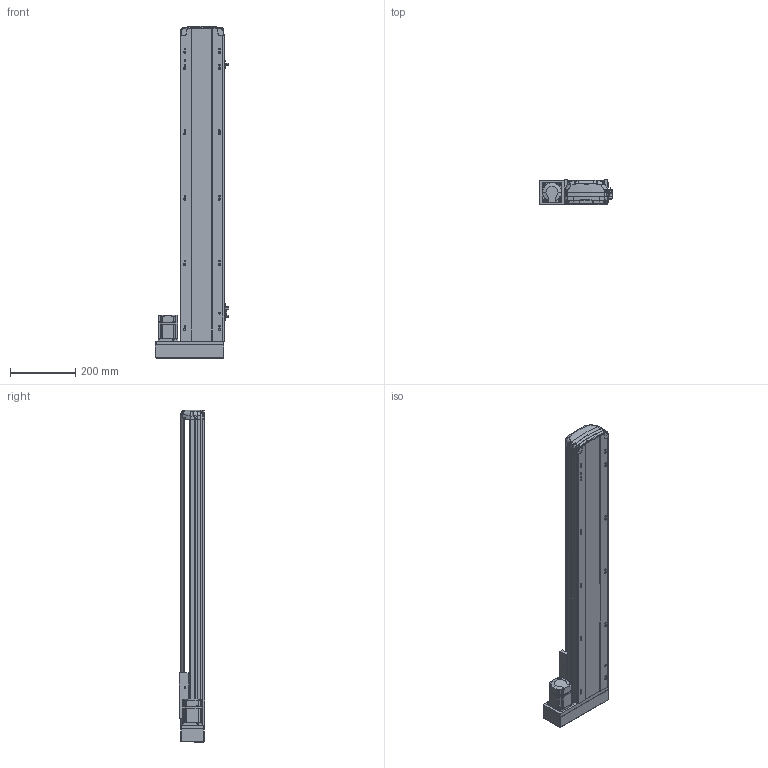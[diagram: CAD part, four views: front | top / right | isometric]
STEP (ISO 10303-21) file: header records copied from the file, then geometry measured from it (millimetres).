
FILE_DESCRIPTION (( 'STEP AP214' ), '1' );
FILE_NAME ('RTH14-XX-750-L-M20-C4.STEP', '2025-10-25T02:39:24', ( 'Microsoft' ), ( 'Microsoft' ), 'SwSTEP 2.0', 'SolidWorks 2018', '' );
FILE_SCHEMA (( 'AUTOMOTIVE_DESIGN' ));
Length unit declared in the file: millimetre
Products named in the file (10): N_RTH13-L-012感应片（外置）^RTH14-XX-XX-L-M20-C4; N_MSMD022P1AA_200W^RTH14-XX-XX-L-M20-C4; RTH14-XX-750-L-M20-C4; N_RTH13-L-008-P20 萇儂啣酘蛌殏^RTH14-XX-XX-L-M20-C4; N_OMRON EE-SX672 传感器^RTH14-XX-XX-L-M20-C4; N_RTH13-L-018 裔赽^RTH14-XX-XX-L-M20-C4; N_RTH14-M-011P菁釱^RTH14-XX-XX-L-M20-C4; N_RTH14-R-004-SFSR16賑釱^RTH14-XX-XX-L-M20-C4; N_RTH14-GY-001P^RTH14-XX-XX-L-M20-C4; N_RTH14-M-007P奻裔^RTH14-XX-XX-L-M20-C4
Assembly tree (11 placements, depth 2):
  RTH14-XX-750-L-M20-C4
    N_RTH14-M-011P菁釱^RTH14-XX-XX-L-M20-C4
    N_RTH14-M-007P奻裔^RTH14-XX-XX-L-M20-C4
    N_MSMD022P1AA_200W^RTH14-XX-XX-L-M20-C4
    N_RTH13-L-008-P20 萇儂啣酘蛌殏^RTH14-XX-XX-L-M20-C4
    N_RTH13-L-018 裔赽^RTH14-XX-XX-L-M20-C4
    N_RTH13-L-012感应片（外置）^RTH14-XX-XX-L-M20-C4
    N_OMRON EE-SX672 传感器^RTH14-XX-XX-L-M20-C4  x3
    N_RTH14-GY-001P^RTH14-XX-XX-L-M20-C4
    N_RTH14-R-004-SFSR16賑釱^RTH14-XX-XX-L-M20-C4
Bounding box: 224 x 78.03 x 1017.49 mm (x, y, z)
Volume: 4517677.3 mm3; surface area: 1050730.2 mm2
Topology: 11 solids, 11 shells, 1882 faces, 5261 edges, 3446 vertices
Faces by surface type: plane 991, cylinder 497, bspline 345, cone 45, torus 4
Entity records: 57531 total; most frequent: CARTESIAN_POINT 23131, ORIENTED_EDGE 7590, DIRECTION 6112, EDGE_CURVE 3795, VERTEX_POINT 2482, VECTOR 2168, LINE 2168, AXIS2_PLACEMENT_3D 1972
